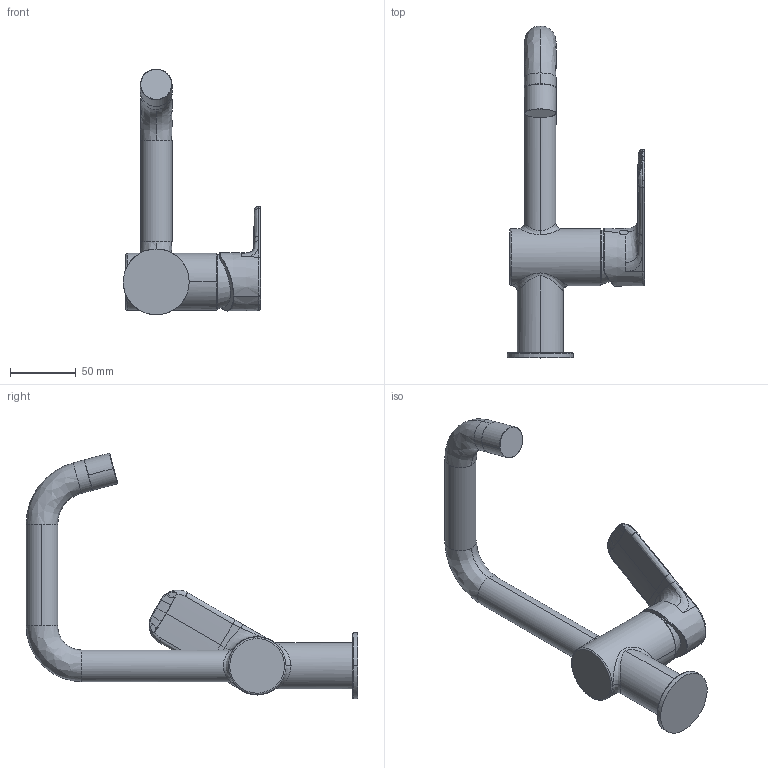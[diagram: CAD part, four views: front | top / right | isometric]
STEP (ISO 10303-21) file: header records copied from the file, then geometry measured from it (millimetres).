
FILE_DESCRIPTION (( 'STEP AP203' ), '1' );
FILE_NAME ('1611FN(2025).STEP', '2024-12-03T08:28:42', ( '' ), ( '' ), 'SwSTEP 2.0', 'SolidWorks 2024', '' );
FILE_SCHEMA (( 'CONFIG_CONTROL_DESIGN' ));
Length unit declared in the file: millimetre
Products named in the file (1): 1611FN(2025)
Bounding box: 104.37 x 251.98 x 186.55 mm (x, y, z)
Volume: 366646.2 mm3; surface area: 55460.6 mm2
Topology: 1 solids, 1 shells, 134 faces, 347 edges, 218 vertices
Faces by surface type: bspline 103, cylinder 16, plane 11, torus 2, cone 2
Entity records: 12184 total; most frequent: CARTESIAN_POINT 9618, ORIENTED_EDGE 694, EDGE_CURVE 347, DIRECTION 301, VERTEX_POINT 218, B_SPLINE_CURVE_WITH_KNOTS 157, EDGE_LOOP 137, AXIS2_PLACEMENT_3D 136
